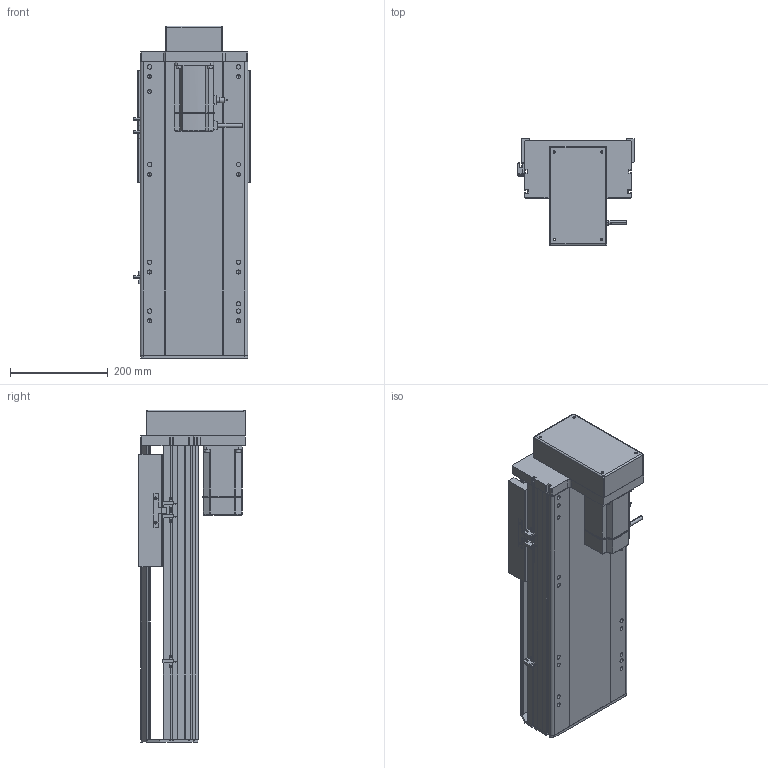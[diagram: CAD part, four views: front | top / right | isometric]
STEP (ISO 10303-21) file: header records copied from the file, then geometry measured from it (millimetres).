
FILE_DESCRIPTION (( 'STEP AP214' ), '1' );
FILE_NAME ('RTH22-XX-300-M-M75-C4.STEP', '2025-10-24T11:06:25', ( 'Microsoft' ), ( 'Microsoft' ), 'SwSTEP 2.0', 'SolidWorks 2018', '' );
FILE_SCHEMA (( 'AUTOMOTIVE_DESIGN' ));
Length unit declared in the file: millimetre
Products named in the file (10): N_OMRON EE-SX672 传感器^RTH22-XX-XX-M-M75-C4; N_RTH22-M-008-P75萇儂啣^RTH22-XX-XX-M-M75-C4; N_RTH22-GY-001耜裔^RTH22-XX-XX-M-M75-C4; N_RTH22-L-011菁釱^RTH22-XX-XX-M-M75-C4; N_RTH22-L-004-SFS25賑釱^RTH22-XX-XX-M-M75-C4; N_RTH22-M-018裔赽^RTH22-XX-XX-M-M75-C4; N_750W萇儂^RTH22-XX-XX-M-M75-C4; N_RTH22-GY-013外置感应片^RTH22-XX-XX-M-M75-C4; N_RTH22-M-007奻裔^RTH22-XX-XX-M-M75-C4; RTH22-XX-300-M-M75-C4
Assembly tree (11 placements, depth 2):
  RTH22-XX-300-M-M75-C4
    N_RTH22-L-011菁釱^RTH22-XX-XX-M-M75-C4
    N_RTH22-GY-001耜裔^RTH22-XX-XX-M-M75-C4
    N_750W萇儂^RTH22-XX-XX-M-M75-C4
    N_RTH22-M-008-P75萇儂啣^RTH22-XX-XX-M-M75-C4
    N_RTH22-M-007奻裔^RTH22-XX-XX-M-M75-C4
    N_RTH22-M-018裔赽^RTH22-XX-XX-M-M75-C4
    N_OMRON EE-SX672 传感器^RTH22-XX-XX-M-M75-C4  x3
    N_RTH22-GY-013外置感应片^RTH22-XX-XX-M-M75-C4
    N_RTH22-L-004-SFS25賑釱^RTH22-XX-XX-M-M75-C4
Bounding box: 238.5 x 218.5 x 679.7 mm (x, y, z)
Volume: 10659725.7 mm3; surface area: 1256756.8 mm2
Topology: 11 solids, 11 shells, 1569 faces, 4280 edges, 2765 vertices
Faces by surface type: plane 801, cylinder 439, bspline 279, cone 50
Entity records: 39025 total; most frequent: CARTESIAN_POINT 11920, ORIENTED_EDGE 5552, DIRECTION 5190, EDGE_CURVE 2776, VERTEX_POINT 1801, VECTOR 1752, LINE 1752, AXIS2_PLACEMENT_3D 1719
